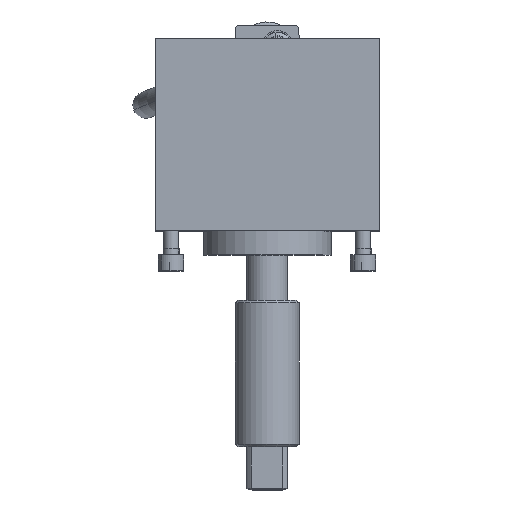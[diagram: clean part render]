
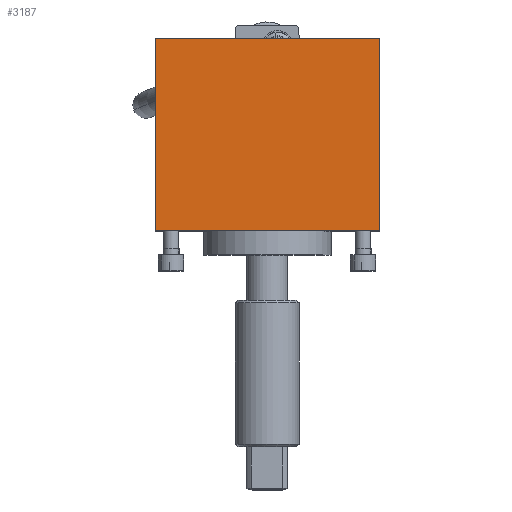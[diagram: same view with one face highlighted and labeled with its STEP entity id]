
A CAD part, top view. The second image highlights one B-rep face of the part: STEP entity #3187.
In plain terms, the highlighted planar face has unit normal (0, 0, 1).
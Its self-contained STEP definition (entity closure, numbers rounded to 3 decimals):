
#3169=AXIS2_PLACEMENT_3D('Plane Axis2P3D',#3166,#3167,#3168) ;
#2394=CARTESIAN_POINT('Vertex',(-70.,-45.,533.3)) ;
#2410=CARTESIAN_POINT('Vertex',(70.,-45.,533.3)) ;
#2413=CARTESIAN_POINT('Line Origine',(0.,-45.,533.3)) ;
#3110=CARTESIAN_POINT('Vertex',(-70.,75.2,533.3)) ;
#3113=CARTESIAN_POINT('Line Origine',(0.,75.2,533.3)) ;
#3117=CARTESIAN_POINT('Vertex',(70.,75.2,533.3)) ;
#3166=CARTESIAN_POINT('Axis2P3D Location',(0.,-45.,533.3)) ;
#3171=CARTESIAN_POINT('Line Origine',(-70.,15.1,533.3)) ;
#3176=CARTESIAN_POINT('Line Origine',(70.,15.1,533.3)) ;
#2414=DIRECTION('Vector Direction',(-1.,0.,0.)) ;
#3114=DIRECTION('Vector Direction',(-1.,0.,0.)) ;
#3167=DIRECTION('Axis2P3D Direction',(0.,0.,1.)) ;
#3168=DIRECTION('Axis2P3D XDirection',(0.,1.,0.)) ;
#3172=DIRECTION('Vector Direction',(0.,1.,0.)) ;
#3177=DIRECTION('Vector Direction',(0.,1.,0.)) ;
#2415=VECTOR('Line Direction',#2414,1.) ;
#3115=VECTOR('Line Direction',#3114,1.) ;
#3173=VECTOR('Line Direction',#3172,1.) ;
#3178=VECTOR('Line Direction',#3177,1.) ;
#3182=ORIENTED_EDGE('',*,*,#3175,.T.) ;
#3183=ORIENTED_EDGE('',*,*,#2417,.F.) ;
#3184=ORIENTED_EDGE('',*,*,#3180,.F.) ;
#3185=ORIENTED_EDGE('',*,*,#3119,.T.) ;
#3187=ADVANCED_FACE('AWD-325-700.1\\AWD325-700.1\\Hauptk\X2\00F6\X0\rper',(#3186),#3170,.T.) ;
#2417=EDGE_CURVE('',#2411,#2395,#2416,.T.) ;
#3119=EDGE_CURVE('',#3118,#3111,#3116,.T.) ;
#3175=EDGE_CURVE('',#3111,#2395,#3174,.F.) ;
#3180=EDGE_CURVE('',#3118,#2411,#3179,.F.) ;
#3181=EDGE_LOOP('',(#3182,#3183,#3184,#3185)) ;
#3186=FACE_OUTER_BOUND('',#3181,.T.) ;
#2416=LINE('Line',#2413,#2415) ;
#3116=LINE('Line',#3113,#3115) ;
#3174=LINE('Line',#3171,#3173) ;
#3179=LINE('Line',#3176,#3178) ;
#3170=PLANE('Plane',#3169) ;
#2395=VERTEX_POINT('',#2394) ;
#2411=VERTEX_POINT('',#2410) ;
#3111=VERTEX_POINT('',#3110) ;
#3118=VERTEX_POINT('',#3117) ;
